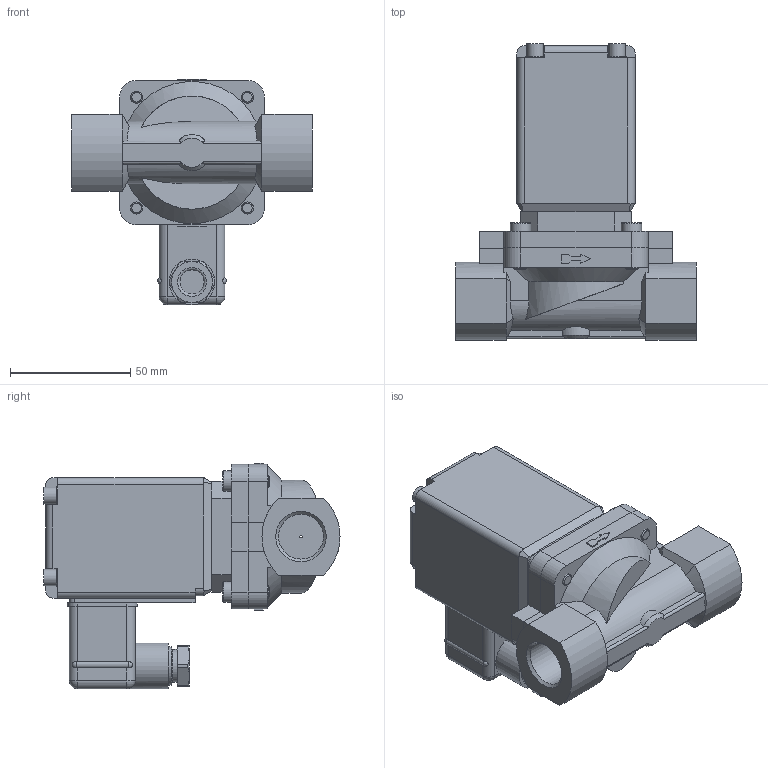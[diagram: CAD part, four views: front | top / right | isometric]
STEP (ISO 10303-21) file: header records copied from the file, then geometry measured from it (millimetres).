
FILE_DESCRIPTION(/* description */ ('STEP AP214'),/* implementation_level */ '2;1');
FILE_NAME(/* name */ '0290-153870-Servo-assisted__2_2_way_diaphragm_valve',/* time_stamp */ '2024-10-01T10:16:48+02:00',/* author */ ('License CC BY-ND 4.0'),/* organization */ ('CADENAS'),/* preprocessor_version */ 'ST-DEVELOPER v19.3',/* originating_system */ 'PARTsolutions',/* authorisation */ ' ');
FILE_SCHEMA (('AUTOMOTIVE_DESIGN {1 0 10303 214 3 1 1}'));
Length unit declared in the file: millimetre
Products named in the file (3): 0290-153870-Servo-assisted  2/2 way diaphragm valve; 0290d-20VA2/2-way Solenoid Valve_cover; 5282g-8420VA000-2/2-Wege-Magnetventil_Gehaeuse
Assembly tree (2 placements, depth 2):
  0290-153870-Servo-assisted  2/2 way diaphragm valve
    0290d-20VA2/2-way Solenoid Valve_cover
    5282g-8420VA000-2/2-Wege-Magnetventil_Gehaeuse
Bounding box: 100 x 122.9 x 93.7 mm (x, y, z)
Volume: 349598.4 mm3; surface area: 52853.7 mm2
Topology: 2 solids, 2 shells, 284 faces, 732 edges, 471 vertices
Faces by surface type: plane 160, cylinder 83, cone 28, sphere 8, torus 5
Full cylindrical faces by diameter (mm): 1 x1, 5 x4, 7 x5, 8.5 x4, 10 x1, 13.7 x1, 16 x1, 18.631 x2, 19 x1
Entity records: 9861 total; most frequent: CARTESIAN_POINT 1730, DIRECTION 1378, ORIENTED_EDGE 1374, EDGE_CURVE 687, AXIS2_PLACEMENT_3D 484, VERTEX_POINT 463, LINE 410, VECTOR 410
